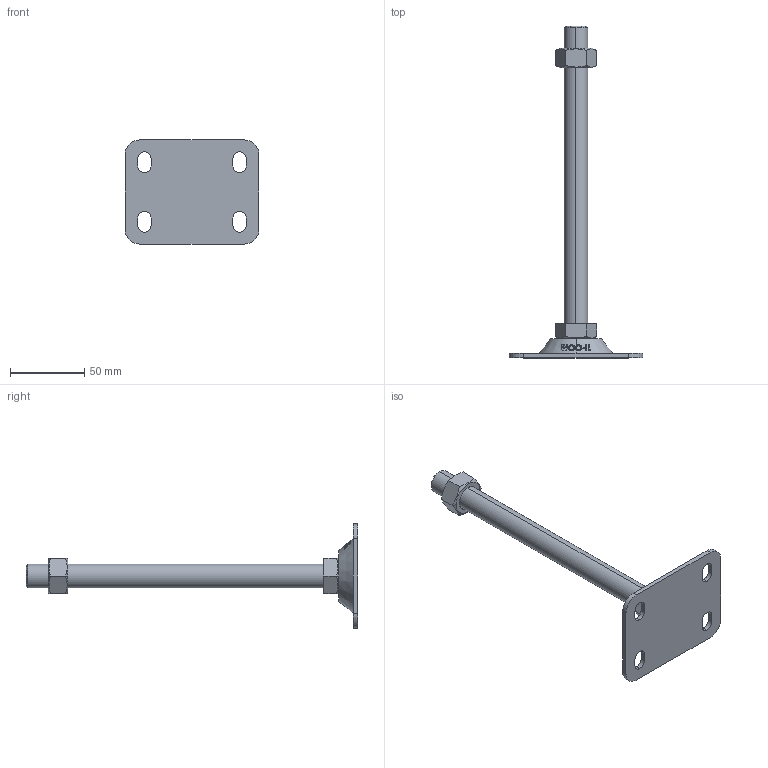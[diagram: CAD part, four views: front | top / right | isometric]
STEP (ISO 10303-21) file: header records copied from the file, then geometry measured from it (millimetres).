
FILE_DESCRIPTION (( 'STEP AP214' ), '1' );
FILE_NAME ('FABL7090-M16-200.step', '2021-03-28T23:51:54', ( '' ), ( '' ), 'SwSTEP 2.0', 'SolidWorks 2019', '' );
FILE_SCHEMA (( 'AUTOMOTIVE_DESIGN' ));
Length unit declared in the file: millimetre
Products named in the file (2): FABL7090-M16-200
Bounding box: 90 x 223 x 70 mm (x, y, z)
Volume: 80239.9 mm3; surface area: 26853.2 mm2
Topology: 2 solids, 2 shells, 146 faces, 384 edges, 252 vertices
Faces by surface type: plane 58, cylinder 48, cone 22, bspline 18
Entity records: 6084 total; most frequent: CARTESIAN_POINT 2656, ORIENTED_EDGE 768, DIRECTION 582, EDGE_CURVE 384, VERTEX_POINT 252, AXIS2_PLACEMENT_3D 210, EDGE_LOOP 166, LINE 162
